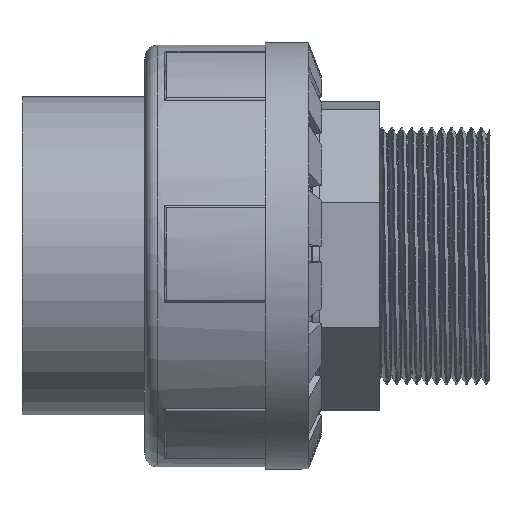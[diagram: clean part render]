
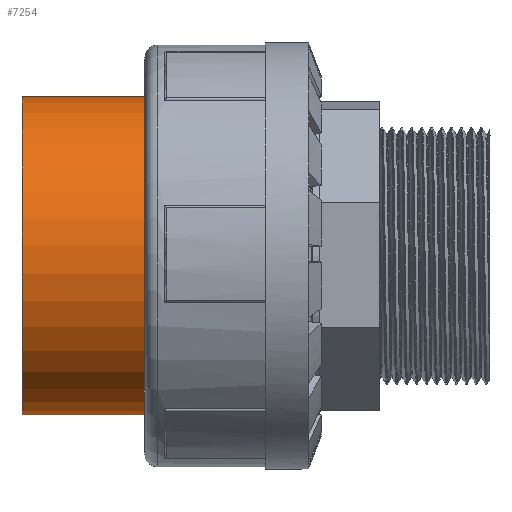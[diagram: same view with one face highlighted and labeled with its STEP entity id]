
A CAD part, top view. The second image highlights one B-rep face of the part: STEP entity #7254.
In plain terms, the highlighted cylindrical face has radius 37 mm (diameter 74 mm), a full revolution.
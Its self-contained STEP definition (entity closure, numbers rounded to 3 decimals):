
#1997=FACE_BOUND('',#2892,.T.);
#2412=FACE_OUTER_BOUND('',#2891,.T.);
#2891=EDGE_LOOP('',(#6793));
#2892=EDGE_LOOP('',(#6794));
#3076=CIRCLE('',#7857,37.);
#3077=CIRCLE('',#7859,37.);
#3744=VERTEX_POINT('',#31031);
#3745=VERTEX_POINT('',#31034);
#4761=EDGE_CURVE('',#3744,#3744,#3076,.T.);
#4762=EDGE_CURVE('',#3745,#3745,#3077,.T.);
#6793=ORIENTED_EDGE('',*,*,#4762,.F.);
#6794=ORIENTED_EDGE('',*,*,#4761,.T.);
#6840=CYLINDRICAL_SURFACE('',#7858,37.);
#7254=ADVANCED_FACE('',(#2412,#1997),#6840,.T.);
#7857=AXIS2_PLACEMENT_3D('',#31032,#9612,#9613);
#7858=AXIS2_PLACEMENT_3D('',#31033,#9614,#9615);
#7859=AXIS2_PLACEMENT_3D('',#31035,#9616,#9617);
#9612=DIRECTION('center_axis',(-1.,0.,0.));
#9613=DIRECTION('ref_axis',(0.,0.,1.));
#9614=DIRECTION('center_axis',(-1.,0.,0.));
#9615=DIRECTION('ref_axis',(0.,-1.,0.));
#9616=DIRECTION('center_axis',(-1.,0.,0.));
#9617=DIRECTION('ref_axis',(0.,0.,1.));
#31031=CARTESIAN_POINT('',(33.5,-37.,0.));
#31032=CARTESIAN_POINT('Origin',(33.5,0.,0.));
#31033=CARTESIAN_POINT('Origin',(16.75,0.,0.));
#31034=CARTESIAN_POINT('',(0.,-37.,0.));
#31035=CARTESIAN_POINT('Origin',(0.,0.,0.));
